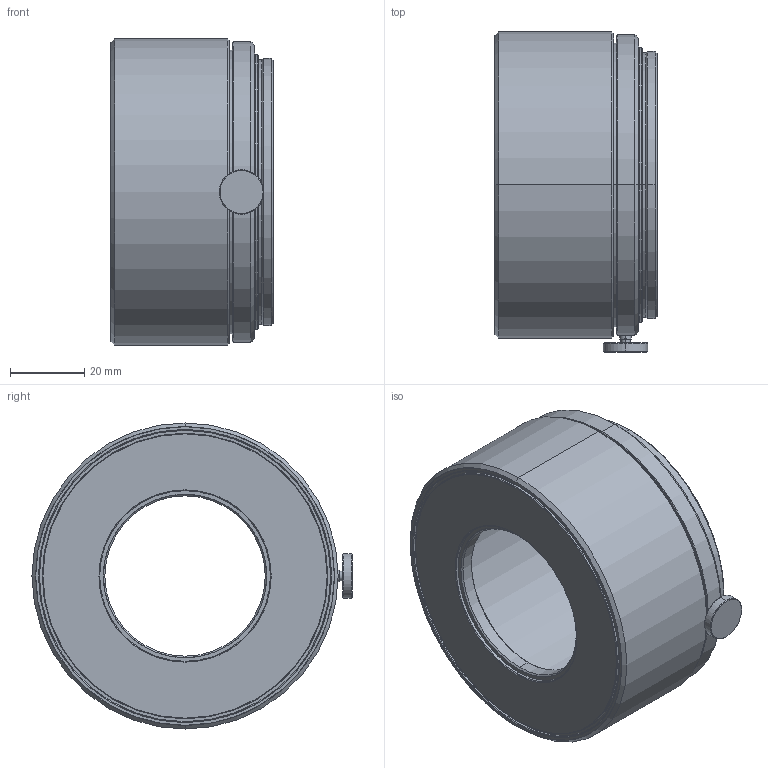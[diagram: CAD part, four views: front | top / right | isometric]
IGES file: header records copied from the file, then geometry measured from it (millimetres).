
Start section: SolidWorks IGES file using analytic representation for surfaces
Bounding box: 43.7 x 86.25 x 82.5 mm (x, y, z)
Surface area: 29695.7 mm2 (no closed solid volume)
Topology: 0 solids, 0 shells, 84 faces, 1894 edges, 1894 vertices
Faces by surface type: revolution 70, bspline 14
